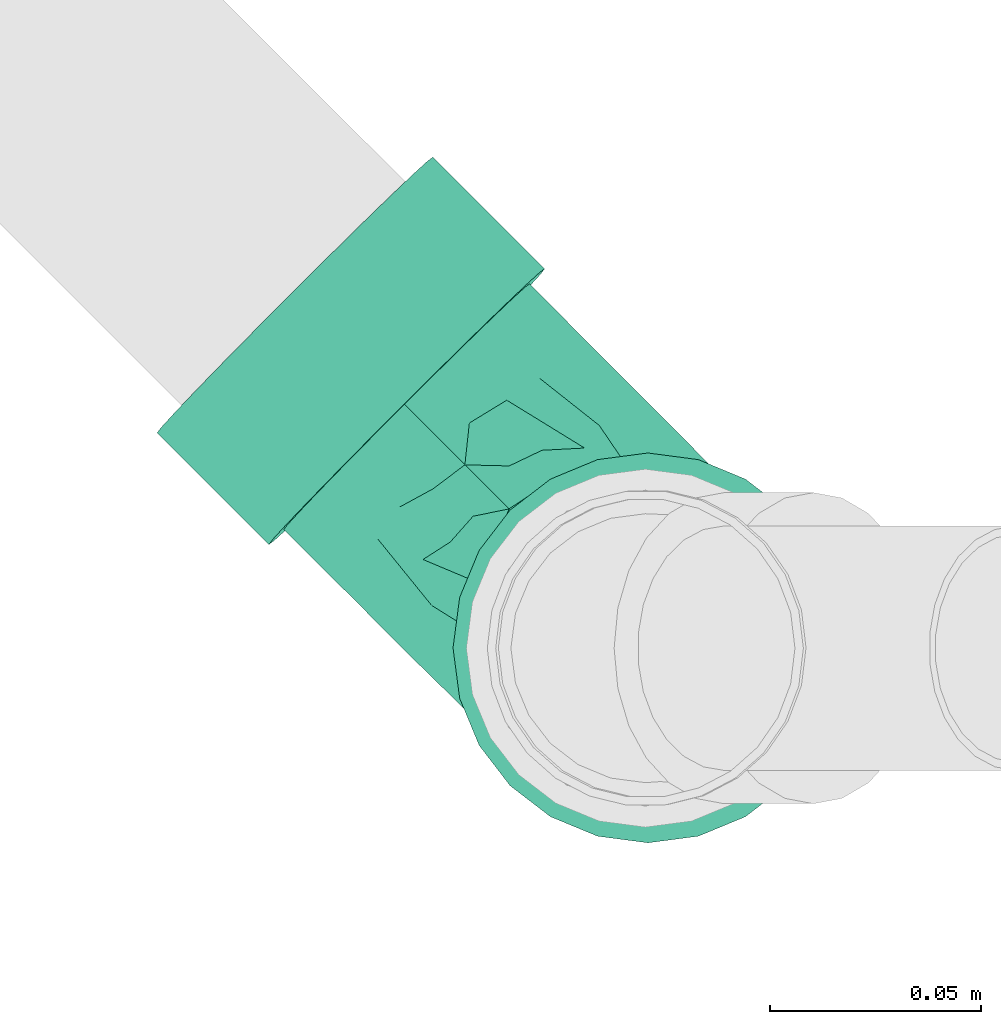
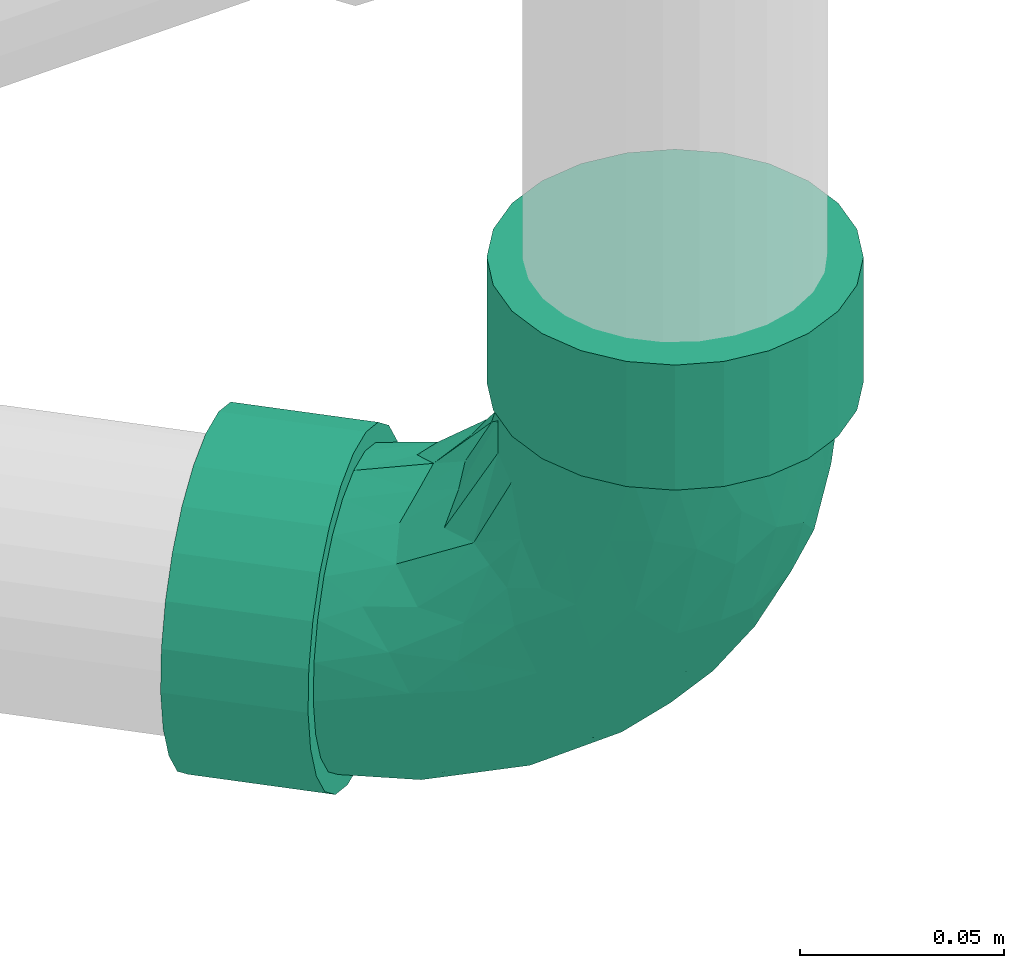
# One storey, part 70 of 83: 1 flow fitting.
"""IFC2X3 building model written with IfcOpenShell, lengths in millimetres."""

from ifc_helpers import new_model, entity, si_unit, converted_unit, derived_unit, direction, frame, origin_with_axes, place, context, subcontext, project, spatial, open_shell, surface_model, source, transform, mapped, type_object, element, save


model = new_model("IFC2X3")

# Units and contexts
model_context = context("Model", 3, precision=0.01, world=frame((0.0, 4.29681676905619e-09, 0.0)), true_north=direction((4.01073788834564e-13, 1.0)))
plan_context = context("Plan", 3, precision=0.01, world=frame((0.0, 4.29681676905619e-09, 0.0)), true_north=direction((4.01073788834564e-13, 1.0)))
body_context = subcontext(model_context, "Body", "Model", "MODEL_VIEW")
ifc_project = project(units=[converted_unit("PLANEANGLEUNIT", "DEGREE", entity("IfcPositiveLengthMeasure", 0.0174532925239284), si_unit("PLANEANGLEUNIT", "RADIAN"), dimensions=[0, 0, 0, 0, 0, 0, 0]), si_unit("AREAUNIT", "SQUARE_METRE"), si_unit("LENGTHUNIT", "METRE", prefix="MILLI"), si_unit("MASSUNIT", "GRAM", prefix="KILO"), si_unit("POWERUNIT", "WATT"), si_unit("PRESSUREUNIT", "PASCAL"), si_unit("FORCEUNIT", "NEWTON", prefix="KILO"), si_unit("ELECTRICVOLTAGEUNIT", "VOLT"), si_unit("ELECTRICCURRENTUNIT", "AMPERE"), si_unit("THERMODYNAMICTEMPERATUREUNIT", "DEGREE_CELSIUS"), si_unit("TIMEUNIT", "SECOND"), si_unit("VOLUMEUNIT", "CUBIC_METRE"), derived_unit("LINEARVELOCITYUNIT", [(si_unit("LENGTHUNIT", "METRE"), 1), (si_unit("TIMEUNIT", "SECOND"), -1)]), derived_unit("VOLUMETRICFLOWRATEUNIT", [(si_unit("VOLUMEUNIT", "CUBIC_METRE"), 1), (si_unit("TIMEUNIT", "SECOND"), -1)]), derived_unit("THERMALTRANSMITTANCEUNIT", [(si_unit("POWERUNIT", "WATT"), 1), (si_unit("THERMODYNAMICTEMPERATUREUNIT", "KELVIN"), -1), (si_unit("AREAUNIT", "SQUARE_METRE"), -1)]), derived_unit("SOUNDPRESSUREUNIT", [(si_unit("PRESSUREUNIT", "PASCAL"), 1)])], contexts=[model_context, plan_context])

# Site, building, storey
site_placement = place(None, frame((0.0, -4.29681676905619e-09, 0.0), z_axis=(0.0, 0.0, 1.0), x_axis=(1.0, 0.0, 0.0)))
site = spatial("IfcSite", under=ifc_project, at=site_placement, Name="ENGM", CompositionType="ELEMENT")
building_placement = place(site_placement, frame((0.0, 4.29681676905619e-09, 0.0), z_axis=(0.0, 0.0, 1.0), x_axis=(1.0, 0.0, 0.0)))
building = spatial("IfcBuilding", under=site, at=building_placement, Name="TI", CompositionType="ELEMENT")
storey_placement = place(building_placement, frame((0.0, 0.0, 204000.0), z_axis=(0.0, 0.0, 1.0), x_axis=(1.0, 0.0, 0.0)))
storey = spatial("IfcBuildingStorey", under=building, at=storey_placement, Name="Nivå D", CompositionType="ELEMENT", Elevation=204000.0)

# Flow fitting
pipe_fitting_type = type_object("IfcPipeFittingType", Name="magi_sewer_bend_001", PredefinedType="BEND")
shared_shape = source(origin_with_axes(), body_context, "Body", "SurfaceModel", [
    surface_model("IfcShellBasedSurfaceModel", [(-118.44959, -44.67407, -11.97038), (-118.44959, -11.97038, -44.67407), (-118.44959, -23.125, -40.05367), (-118.44959, -32.70369, -32.70369), (-118.44959, 0.0, -46.25), (-118.44959, -40.05367, -23.125), (-118.44959, -46.25, 0.0), (-118.44959, 11.97038, -44.67407), (-118.44959, 32.70369, -32.70369), (-118.44959, 23.125, -40.05367), (-118.44959, 44.67407, -11.97038), (-118.44959, 40.05367, -23.125), (-118.44959, -32.70369, 32.70369), (-118.44959, -44.67407, 11.97038), (-118.44959, -40.05367, 23.125), (-118.44959, 40.05367, 23.125), (-118.44959, -23.125, 40.05367), (-118.44959, -11.97038, 44.67407), (-118.44959, 0.0, 46.25), (-118.44959, 11.97038, 44.67407), (-118.44959, 44.67407, 11.97038), (-118.44959, 46.25, 0.0), (-118.44959, 23.125, 40.05367), (-118.44959, 32.70369, 32.70369), (-80.94959, 0.0, 46.25), (-80.94959, -11.97038, 44.67407), (-80.94959, -23.125, 40.05367), (-80.94959, -32.70369, 32.70369), (-80.94959, -40.05367, 23.125), (-80.94959, -44.67407, 11.97038), (-80.94959, 40.05367, 23.125), (-80.94959, -44.67407, -11.97038), (-80.94959, 23.125, 40.05367), (-80.94959, 32.70369, 32.70369), (-80.94959, 11.97038, 44.67407), (-80.94959, 44.67407, 11.97038), (-80.94959, 44.67407, -11.97038), (-80.94959, 46.25, 0.0), (-80.94959, -32.70369, -32.70369), (-80.94959, -40.05367, -23.125), (-80.94959, -23.125, -40.05367), (-80.94959, -11.97038, -44.67407), (-80.94959, 11.97038, -44.67407), (-80.94959, 32.70369, -32.70369), (-80.94959, 40.05367, -23.125), (-80.94959, 23.125, -40.05367), (-80.94959, 0.0, -46.25), (-80.94959, -46.25, 0.0), (-37.79955, 119.18807, 23.125), (-43.99476, 119.30561, 0.0), (-42.41912, 119.27572, 11.97038), (-20.87392, 118.86695, 40.05367), (-30.45089, 119.04865, 32.70369), (-9.72131, 118.65535, 44.67407), (-9.72131, 118.65535, -44.67407), (34.94472, 117.80791, 32.70369), (-42.41912, 119.27572, -11.97038), (-30.45089, 119.04865, -32.70369), (-37.79955, 119.18807, -23.125), (-20.87392, 118.86695, -40.05367), (2.24691, 118.42828, 46.25), (14.21514, 118.20121, 44.67407), (25.36775, 117.98961, 40.05367), (25.36775, 117.98961, -40.05367), (42.29338, 117.66849, 23.125), (46.91295, 117.58084, 11.97038), (48.48859, 117.55095, 0.0), (14.21514, 118.20121, -44.67407), (2.24691, 118.42828, -46.25), (34.94472, 117.80791, -32.70369), (46.91295, 117.58084, -11.97038), (42.29338, 117.66849, -23.125), (46.20159, 80.08759, -11.97038), (47.77724, 80.0577, 0.0), (46.20159, 80.08759, 11.97038), (41.58203, 80.17523, 23.125), (34.23337, 80.31466, 32.70369), (24.6564, 80.49636, 40.05367), (13.50379, 80.70796, 44.67407), (-10.43266, 81.1621, 44.67407), (24.6564, 80.49636, -40.05367), (34.23337, 80.31466, -32.70369), (41.58203, 80.17523, -23.125), (13.50379, 80.70796, -44.67407), (-10.43266, 81.1621, -44.67407), (1.53556, 80.93503, -46.25), (-38.5109, 81.69482, 23.125), (-21.58528, 81.37369, 40.05367), (-43.13047, 81.78246, -11.97038), (-31.16224, 81.5554, 32.70369), (-44.70611, 81.81236, 0.0), (-43.13047, 81.78246, 11.97038), (-31.16224, 81.5554, -32.70369), (-21.58528, 81.37369, -40.05367), (-38.5109, 81.69482, -23.125), (1.53556, 80.93503, 46.25), (-80.94959, 10.67629, -39.84444), (-80.94959, 0.0, -41.25), (-80.94959, 35.72355, -20.625), (-80.94959, 20.625, -35.72355), (-80.94959, -10.67629, -39.84444), (-80.94959, 29.16816, -29.16816), (-80.94959, 39.84444, -10.67629), (-80.94959, -29.16816, -29.16816), (-80.94959, -35.72355, -20.625), (-80.94959, -20.625, -35.72355), (-80.94959, -39.84444, -10.67629), (-80.94959, -41.25, 0.0), (-80.94959, -39.84444, 10.67629), (-80.94959, 41.25, 0.0), (-80.94959, 35.72355, 20.625), (-80.94959, 39.84444, 10.67629), (-80.94959, 10.67629, 39.84444), (-80.94959, 20.625, 35.72355), (-80.94959, 29.16816, 29.16816), (-80.94959, -35.72355, 20.625), (-80.94959, -29.16816, 29.16816), (-80.94959, -10.67629, 39.84444), (-80.94959, -20.625, 35.72355), (-80.94959, 0.0, 41.25), (1.53556, 80.93503, -41.25), (-9.1388, 81.13755, -39.84444), (-19.08573, 81.32627, -35.72355), (-38.30171, 81.69085, -10.67629), (-27.62734, 81.48833, -29.16816), (-34.18156, 81.61268, -20.625), (22.15685, 80.54378, -35.72355), (41.37283, 80.1792, -10.67629), (30.69847, 80.38172, -29.16816), (12.20993, 80.73251, -39.84444), (37.25268, 80.25737, -20.625), (41.37283, 80.1792, 10.67629), (42.77814, 80.15254, 0.0), (-39.70701, 81.71751, 0.0), (-38.30171, 81.69085, 10.67629), (-34.18156, 81.61268, 20.625), (-27.62734, 81.48833, 29.16816), (12.20993, 80.73251, 39.84444), (-19.08573, 81.32627, 35.72355), (-9.1388, 81.13755, 39.84444), (1.53556, 80.93503, 41.25), (30.69847, 80.38172, 29.16816), (37.25268, 80.25737, 20.625), (22.15685, 80.54378, 35.72355), (-54.21142, -36.17349, 12.99873), (-58.97864, -32.03346, 23.17904), (-43.15556, -35.33749, 0.0), (-60.65412, -38.07497, 0.0), (23.46066, 18.70199, 10.6224), (15.08658, 9.60839, 15.89184), (12.03279, 2.24168, 8.66501), (-61.73405, -5.46861, 40.55451), (-56.41047, 6.31747, 41.17641), (32.48836, 35.24149, 8.38729), (27.24081, 25.55211, 0.0), (-58.79955, -15.54044, 37.10997), (-30.73183, -9.789, 34.52957), (-39.99561, -0.48909, 40.00847), (-68.54691, -25.44983, 31.89385), (-35.85143, -31.81401, 8.38729), (-26.06425, -26.7512, 0.0), (-6.65953, 6.78708, 33.85086), (-13.92631, -9.86901, 26.48626), (-39.03593, 65.24683, 17.87849), (-14.07466, 70.10129, 38.62299), (-4.51787, 60.3774, 41.14574), (-62.09495, 16.19374, 38.95574), (-9.98015, 26.58291, 40.49589), (-19.44106, 7.49762, 38.61818), (-3.18554, 21.61848, 37.9095), (-70.08305, 24.97195, 33.5818), (-13.56149, 39.86223, 41.15784), (-29.61532, 30.18254, 40.21009), (-23.85032, 17.6641, 41.06574), (-61.91117, 44.69452, 9.37157), (-64.4946, 40.2666, 17.87849), (26.74554, 68.05181, 31.89385), (-63.06799, 34.369, 27.03609), (-42.55996, 45.49244, 29.15913), (-51.74517, 44.16513, 22.90235), (-33.25458, 63.40927, 27.06887), (16.65303, 58.49417, 37.10997), (24.49669, 50.85278, 30.66251), (33.14648, 58.36037, 23.17904), (25.6939, 31.3743, 20.55258), (37.19534, 53.51547, 12.99873), (-8.97295, -18.16492, 0.0), (-19.14366, -23.10167, 10.6224), (6.63869, 61.61921, 40.55451), (-44.14898, 17.48709, 40.50696), (-39.47658, 10.04025, 41.23814), (18.33186, 8.62676, 0.0), (39.21869, 59.92095, 0.0), (-42.92864, 27.63056, 38.12692), (-31.85605, -25.09413, 20.55258), (-51.30831, -23.52764, 30.66251), (-28.88031, 52.46471, 34.64526), (-23.91822, 68.16658, 33.76549), (-50.421, 53.8111, 7.25659), (-60.5509, 46.64674, 0.0), (19.76229, 31.58259, 27.9347), (10.3702, 30.54061, 34.52957), (10.13141, 13.7366, 26.48626), (-45.48974, 61.42487, 0.0), (-41.65809, 67.69297, 7.77274), (-37.32867, 42.89853, 33.84293), (-55.69998, 27.88517, 34.68276), (-31.7688, -18.02605, 28.92252), (-22.6617, 42.12869, 39.58644), (-31.97915, 39.31856, 37.48822), (-16.7327, 55.04743, 39.25883), (-49.9752, 50.93236, 15.38359), (1.24769, 39.97913, 40.00847), (-2.33579, -11.91789, 8.51692), (-9.66207, -14.83557, 15.69187), (-2.2732, 2.31674, 28.48488), (3.26572, -3.32827, 16.64105), (36.14976, 42.47746, 0.0), (4.67945, -4.76908, 0.0), (-62.76705, 34.45143, -27.06887), (-31.95178, -19.15963, -27.9347), (-30.73183, -9.789, -34.52957), (-13.92631, -9.86901, -26.48626), (-60.28084, 5.66238, -41.14574), (16.65303, 58.49417, -37.10997), (10.3702, 30.54061, -34.52957), (1.24769, 39.97913, -40.00847), (-69.82168, 15.4019, -38.62299), (-23.63803, 70.54415, -33.5818), (-33.16646, 63.70859, -27.03609), (-66.89057, 42.93469, -7.77274), (10.13141, 13.7366, -26.48626), (18.62544, 31.42114, -28.92252), (-64.4946, 40.2666, -17.87849), (12.03279, 2.24168, -8.66501), (15.08658, 9.60839, -15.89184), (23.46066, 18.70199, -10.6224), (-38.70486, 32.71924, -37.48823), (-41.69123, 23.45677, -39.58644), (-51.90743, 29.87034, -34.64526), (-6.65953, 6.78708, -33.85086), (-26.38881, 10.48261, -40.49589), (-7.12749, 19.57978, -38.61818), (-21.55416, 3.59506, -37.9095), (-67.7006, 25.20699, -33.76549), (-54.21142, -36.17349, -12.99873), (-44.67692, 43.41526, -29.15913), (-58.97864, -32.03346, -23.17904), (-31.85605, -25.09413, -20.55258), (-19.14366, -23.10167, -10.6224), (-35.85143, -31.81401, -8.38729), (-58.79955, -15.54044, -37.10997), (-61.73405, -5.46862, -40.55451), (-54.72011, 17.77391, -39.25883), (-39.59781, 14.31521, -41.15784), (-15.01292, 62.39096, -38.95574), (-5.24626, 56.52016, -41.17641), (-43.51206, 62.74786, -9.37157), (-52.84496, 51.43269, -7.25659), (-26.81125, 43.44505, -38.12692), (-16.64647, 44.47275, -40.50696), (-43.17562, 52.57364, -22.90234), (6.63869, 61.61921, -40.55451), (-2.33579, -11.91789, -8.51692), (37.19534, 53.51547, -12.99873), (33.14648, 58.36037, -23.17904), (-68.54691, -25.44983, -31.89385), (-29.61532, 30.18253, -40.21009), (-17.20849, 24.1811, -41.06574), (26.74554, 68.05181, -31.89385), (-51.30831, -23.52764, -30.66251), (-39.03593, 65.24683, -17.87849), (32.48836, 35.24149, -8.38729), (-42.1827, 38.13571, -33.84293), (-26.82356, 56.21892, -34.68276), (25.6939, 31.3743, -20.55258), (24.49669, 50.85278, -30.66251), (-9.2896, 39.65993, -41.23814), (-49.9752, 50.93236, -15.38359), (-39.99561, -0.48909, -40.00847), (0.3462, -0.35283, -23.96303), (-9.66207, -14.83557, -15.69187), (3.26572, -3.32827, -16.64105)], [open_shell([[[0, 1, 2]], [[0, 2, 3]], [[1, 0, 4]], [[0, 3, 5]], [[4, 0, 6]], [[7, 8, 9]], [[8, 7, 4]], [[8, 10, 11]], [[10, 8, 4]], [[4, 6, 10]], [[6, 12, 10]], [[13, 14, 12]], [[10, 12, 15]], [[16, 17, 18]], [[16, 18, 12]], [[19, 12, 18]], [[10, 20, 21]], [[15, 20, 10]], [[15, 22, 23]], [[22, 15, 19]], [[12, 19, 15]], [[6, 13, 12]], [[24, 25, 26]], [[24, 26, 27]], [[27, 28, 29]], [[24, 27, 30]], [[27, 31, 30]], [[32, 30, 33]], [[30, 32, 34]], [[35, 36, 37]], [[30, 34, 24]], [[35, 30, 36]], [[27, 29, 31]], [[36, 30, 31]], [[38, 31, 39]], [[40, 41, 31]], [[40, 31, 38]], [[42, 31, 41]], [[36, 43, 44]], [[36, 31, 43]], [[43, 42, 45]], [[31, 42, 43]], [[41, 46, 42]], [[31, 29, 47]], [[36, 10, 37]], [[44, 11, 36]], [[9, 43, 45]], [[44, 43, 8]], [[7, 45, 42]], [[36, 11, 10]], [[10, 21, 37]], [[7, 9, 45]], [[8, 43, 9]], [[8, 11, 44]], [[4, 7, 42]], [[42, 46, 4]], [[46, 41, 1]], [[5, 39, 31]], [[39, 3, 38]], [[0, 31, 47]], [[1, 40, 2]], [[40, 1, 41]], [[40, 38, 2]], [[38, 3, 2]], [[39, 5, 3]], [[0, 5, 31]], [[47, 6, 0]], [[46, 1, 4]], [[29, 13, 47]], [[28, 14, 29]], [[16, 27, 26]], [[28, 27, 12]], [[17, 26, 25]], [[29, 14, 13]], [[13, 6, 47]], [[17, 16, 26]], [[12, 27, 16]], [[12, 14, 28]], [[18, 17, 25]], [[25, 24, 18]], [[33, 22, 32]], [[35, 15, 30]], [[33, 30, 23]], [[20, 35, 37]], [[32, 19, 34]], [[32, 22, 19]], [[19, 18, 34]], [[33, 23, 22]], [[30, 15, 23]], [[20, 15, 35]], [[37, 21, 20]], [[34, 18, 24]], [[48, 49, 50]], [[51, 48, 52]], [[48, 53, 54]], [[53, 48, 51]], [[53, 55, 54]], [[56, 57, 58]], [[56, 49, 48]], [[57, 54, 59]], [[54, 57, 56]], [[48, 54, 56]], [[53, 60, 61]], [[61, 62, 55]], [[54, 55, 63]], [[63, 64, 65]], [[63, 55, 64]], [[66, 63, 65]], [[54, 67, 68]], [[63, 67, 54]], [[69, 70, 71]], [[70, 69, 63]], [[66, 70, 63]], [[53, 61, 55]], [[72, 73, 74]], [[75, 72, 74]], [[76, 77, 78]], [[76, 78, 75]], [[79, 80, 75]], [[72, 81, 82]], [[81, 72, 80]], [[83, 84, 85]], [[80, 72, 75]], [[83, 80, 84]], [[79, 75, 78]], [[84, 80, 79]], [[86, 79, 87]], [[88, 79, 86]], [[86, 87, 89]], [[90, 86, 91]], [[84, 92, 93]], [[84, 79, 92]], [[92, 88, 94]], [[79, 88, 92]], [[86, 90, 88]], [[79, 78, 95]], [[84, 54, 85]], [[93, 59, 84]], [[58, 92, 94]], [[93, 92, 57]], [[56, 94, 88]], [[84, 59, 54]], [[54, 68, 85]], [[56, 58, 94]], [[57, 92, 58]], [[57, 59, 93]], [[49, 56, 88]], [[88, 90, 49]], [[90, 91, 50]], [[51, 87, 79]], [[87, 52, 89]], [[53, 79, 95]], [[50, 86, 48]], [[86, 50, 91]], [[86, 89, 48]], [[89, 52, 48]], [[87, 51, 52]], [[53, 51, 79]], [[95, 60, 53]], [[90, 50, 49]], [[78, 61, 95]], [[77, 62, 78]], [[64, 76, 75]], [[77, 76, 55]], [[65, 75, 74]], [[78, 62, 61]], [[61, 60, 95]], [[65, 64, 75]], [[55, 76, 64]], [[55, 62, 77]], [[66, 65, 74]], [[74, 73, 66]], [[81, 71, 82]], [[83, 63, 80]], [[81, 80, 69]], [[67, 83, 85]], [[82, 70, 72]], [[82, 71, 70]], [[70, 66, 72]], [[81, 69, 71]], [[80, 63, 69]], [[67, 63, 83]], [[85, 68, 67]], [[72, 66, 73]], [[96, 97, 98]], [[99, 96, 98]], [[100, 98, 97]], [[101, 99, 98]], [[102, 98, 100]], [[103, 104, 105]], [[100, 105, 104]], [[104, 106, 100]], [[106, 102, 100]], [[107, 108, 106]], [[109, 102, 106]], [[110, 111, 109]], [[108, 110, 106]], [[112, 113, 114]], [[108, 114, 110]], [[114, 108, 112]], [[115, 116, 108]], [[117, 108, 116]], [[118, 117, 116]], [[117, 112, 108]], [[117, 119, 112]], [[109, 106, 110]], [[120, 121, 122]], [[120, 122, 123]], [[124, 125, 123]], [[124, 123, 122]], [[120, 123, 126]], [[126, 127, 128]], [[126, 129, 120]], [[128, 127, 130]], [[123, 127, 126]], [[127, 131, 132]], [[127, 123, 133]], [[133, 134, 135]], [[133, 135, 136]], [[137, 136, 138]], [[133, 136, 131]], [[139, 140, 138]], [[131, 141, 142]], [[131, 136, 141]], [[141, 137, 143]], [[141, 136, 137]], [[140, 137, 138]], [[133, 131, 127]], [[144, 145, 115]], [[146, 144, 147]], [[148, 149, 150]], [[144, 115, 108]], [[108, 147, 144]], [[119, 151, 152]], [[116, 115, 145]], [[153, 148, 154]], [[155, 156, 157]], [[158, 118, 116]], [[155, 118, 158]], [[159, 146, 160]], [[161, 156, 162]], [[163, 135, 134]], [[139, 164, 165]], [[112, 166, 113]], [[167, 168, 169]], [[113, 170, 114]], [[117, 151, 119]], [[171, 172, 173]], [[174, 111, 175]], [[175, 111, 110]], [[176, 141, 143]], [[109, 111, 174]], [[177, 178, 179]], [[180, 163, 178]], [[177, 110, 114]], [[119, 152, 112]], [[181, 182, 176]], [[114, 170, 177]], [[183, 184, 185]], [[180, 135, 163]], [[160, 186, 187]], [[140, 188, 137]], [[160, 187, 159]], [[140, 139, 165]], [[189, 190, 173]], [[185, 131, 142]], [[142, 141, 183]], [[183, 185, 142]], [[148, 191, 154]], [[185, 192, 131]], [[193, 166, 189]], [[145, 194, 195]], [[180, 196, 197]], [[198, 199, 174]], [[200, 201, 202]], [[203, 204, 133]], [[193, 205, 206]], [[163, 134, 204]], [[181, 143, 137]], [[180, 136, 135]], [[162, 156, 207]], [[208, 196, 209]], [[118, 155, 117]], [[197, 138, 136]], [[164, 139, 138]], [[210, 171, 165]], [[182, 181, 201]], [[153, 184, 148]], [[196, 180, 178]], [[166, 112, 152]], [[206, 178, 177]], [[175, 179, 211]], [[210, 208, 171]], [[188, 165, 212]], [[156, 155, 195]], [[151, 155, 157]], [[207, 194, 162]], [[156, 161, 168]], [[188, 181, 137]], [[168, 161, 169]], [[212, 201, 181]], [[201, 161, 202]], [[184, 200, 202]], [[187, 213, 214]], [[194, 145, 144]], [[158, 145, 195]], [[176, 183, 141]], [[184, 183, 182]], [[189, 166, 152]], [[170, 166, 206]], [[193, 209, 205]], [[210, 164, 197]], [[177, 175, 110]], [[174, 175, 211]], [[198, 204, 203]], [[211, 179, 163]], [[214, 194, 187]], [[215, 216, 202]], [[162, 215, 161]], [[149, 216, 150]], [[189, 173, 172]], [[212, 165, 171]], [[168, 173, 157]], [[171, 173, 167]], [[165, 188, 140]], [[181, 188, 212]], [[155, 151, 117]], [[152, 151, 157]], [[108, 107, 147]], [[192, 185, 217]], [[192, 132, 131]], [[213, 187, 186]], [[159, 194, 144]], [[213, 150, 216]], [[185, 153, 217]], [[184, 202, 149]], [[189, 152, 190]], [[193, 189, 172]], [[209, 193, 172]], [[166, 193, 206]], [[208, 209, 172]], [[205, 209, 196]], [[198, 174, 211]], [[174, 199, 109]], [[204, 211, 163]], [[199, 198, 203]], [[204, 198, 211]], [[133, 204, 134]], [[152, 157, 190]], [[157, 173, 190]], [[171, 208, 172]], [[196, 208, 210]], [[177, 179, 175]], [[163, 179, 178]], [[218, 191, 150]], [[214, 213, 216]], [[150, 213, 218]], [[191, 148, 150]], [[213, 186, 218]], [[184, 149, 148]], [[202, 216, 149]], [[196, 178, 205]], [[206, 205, 178]], [[216, 162, 214]], [[194, 214, 162]], [[180, 197, 136]], [[210, 197, 196]], [[156, 168, 157]], [[161, 201, 169]], [[201, 212, 169]], [[167, 169, 212]], [[171, 167, 212]], [[168, 167, 173]], [[194, 159, 187]], [[146, 159, 144]], [[217, 153, 154]], [[184, 153, 185]], [[166, 170, 113]], [[177, 170, 206]], [[197, 164, 138]], [[165, 164, 210]], [[145, 158, 116]], [[155, 158, 195]], [[181, 176, 143]], [[183, 176, 182]], [[156, 195, 207]], [[194, 207, 195]], [[184, 182, 200]], [[201, 200, 182]], [[216, 215, 162]], [[202, 161, 215]], [[98, 219, 101]], [[220, 221, 222]], [[97, 96, 223]], [[224, 225, 226]], [[96, 99, 227]], [[124, 228, 229]], [[199, 230, 109]], [[231, 225, 232]], [[233, 102, 230]], [[234, 235, 236]], [[237, 238, 239]], [[225, 231, 240]], [[241, 242, 243]], [[244, 99, 101]], [[104, 245, 106]], [[126, 224, 129]], [[245, 147, 106]], [[239, 219, 246]], [[245, 104, 247]], [[219, 98, 233]], [[248, 249, 250]], [[219, 233, 246]], [[251, 105, 100]], [[127, 132, 192]], [[252, 100, 97]], [[248, 245, 247]], [[253, 254, 223]], [[255, 121, 256]], [[257, 258, 203]], [[259, 255, 260]], [[133, 123, 257]], [[219, 239, 244]], [[261, 229, 246]], [[120, 262, 256]], [[234, 218, 263]], [[124, 122, 228]], [[255, 122, 121]], [[264, 265, 130]], [[120, 129, 262]], [[98, 102, 233]], [[266, 103, 105]], [[124, 229, 125]], [[254, 267, 268]], [[269, 224, 126]], [[270, 266, 251]], [[257, 123, 271]], [[120, 256, 121]], [[217, 154, 272]], [[128, 130, 265]], [[269, 126, 128]], [[264, 127, 192]], [[270, 251, 221]], [[264, 192, 217]], [[249, 186, 160]], [[154, 191, 236]], [[127, 264, 130]], [[259, 273, 274]], [[96, 227, 223]], [[265, 275, 276]], [[123, 125, 271]], [[260, 277, 268]], [[104, 103, 247]], [[274, 246, 229]], [[271, 261, 278]], [[253, 238, 254]], [[252, 223, 279]], [[252, 251, 100]], [[242, 240, 243]], [[279, 221, 251]], [[221, 240, 222]], [[225, 224, 276]], [[262, 224, 226]], [[232, 275, 231]], [[225, 240, 242]], [[250, 249, 160]], [[248, 220, 222]], [[266, 247, 103]], [[248, 247, 270]], [[275, 265, 264]], [[269, 265, 276]], [[260, 255, 256]], [[228, 255, 274]], [[259, 237, 273]], [[253, 227, 244]], [[229, 271, 125]], [[257, 271, 278]], [[258, 230, 199]], [[278, 261, 233]], [[280, 240, 231]], [[281, 282, 263]], [[235, 275, 236]], [[280, 282, 281]], [[260, 268, 267]], [[279, 223, 254]], [[242, 268, 226]], [[254, 268, 241]], [[223, 252, 97]], [[251, 252, 279]], [[224, 262, 129]], [[256, 262, 226]], [[147, 245, 146]], [[147, 107, 106]], [[249, 263, 186]], [[245, 250, 146]], [[248, 222, 281]], [[154, 236, 272]], [[234, 263, 282]], [[272, 275, 264]], [[260, 256, 277]], [[259, 260, 267]], [[237, 259, 267]], [[255, 259, 274]], [[238, 237, 267]], [[273, 237, 239]], [[258, 257, 278]], [[257, 203, 133]], [[230, 278, 233]], [[203, 258, 199]], [[230, 258, 278]], [[109, 230, 102]], [[256, 226, 277]], [[226, 268, 277]], [[254, 238, 267]], [[239, 238, 253]], [[229, 261, 271]], [[233, 261, 246]], [[281, 263, 249]], [[235, 234, 282]], [[236, 191, 234]], [[280, 235, 282]], [[218, 234, 191]], [[218, 186, 263]], [[275, 235, 231]], [[239, 246, 273]], [[274, 273, 246]], [[248, 281, 249]], [[280, 281, 222]], [[219, 244, 101]], [[253, 244, 239]], [[225, 242, 226]], [[240, 221, 243]], [[221, 279, 243]], [[241, 243, 279]], [[254, 241, 279]], [[242, 241, 268]], [[146, 250, 160]], [[248, 250, 245]], [[275, 272, 236]], [[217, 272, 264]], [[255, 228, 122]], [[229, 228, 274]], [[244, 227, 99]], [[223, 227, 253]], [[251, 266, 105]], [[247, 266, 270]], [[265, 269, 128]], [[224, 269, 276]], [[248, 270, 220]], [[221, 220, 270]], [[225, 276, 232]], [[275, 232, 276]], [[240, 280, 222]], [[235, 280, 231]]])]),
])
flow_fitting_placement = place(storey_placement, frame((609125.53312, 693990.82989, 6237.26371999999), z_axis=(-0.707057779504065, -0.707155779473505, 2.25514051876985e-17), x_axis=(0.707028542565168, -0.706930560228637, 0.0189690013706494)))
element("IfcFlowFitting", 1, at=flow_fitting_placement, inside=storey, type_object=pipe_fitting_type, Name="magi_sewer_bend_001", context=body_context, shape_type="MappedRepresentation", body=[
    mapped(shared_shape, transform((0.0, 0.0, 0.0), scale=1.0)),
])

save(model, "model.ifc")
